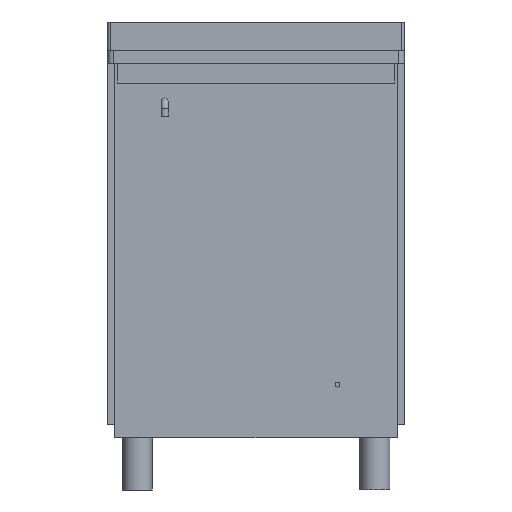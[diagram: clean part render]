
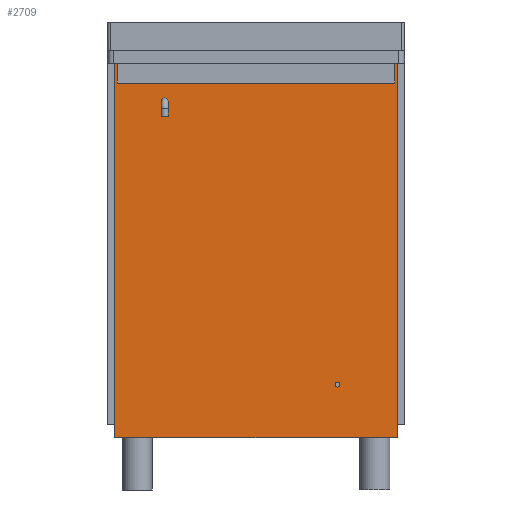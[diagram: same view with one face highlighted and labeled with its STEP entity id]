
A CAD part, left-side view. The second image highlights one B-rep face of the part: STEP entity #2709.
In plain terms, the highlighted planar face has unit normal (-1, 0, 0).
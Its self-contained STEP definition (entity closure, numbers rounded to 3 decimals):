
#505=FACE_BOUND('',#4905,.T.);
#506=FACE_BOUND('',#4906,.T.);
#507=FACE_BOUND('',#4907,.T.);
#1870=CIRCLE('',#16248,7.);
#1871=CIRCLE('',#16249,5.);
#2709=ADVANCED_FACE('',(#505,#506,#507),#3267,.F.);
#3267=PLANE('',#16250);
#4905=EDGE_LOOP('',(#8592));
#4906=EDGE_LOOP('',(#8593));
#4907=EDGE_LOOP('',(#8594,#8595,#8596,#8597));
#8592=ORIENTED_EDGE('',*,*,#12132,.T.);
#8593=ORIENTED_EDGE('',*,*,#12133,.F.);
#8594=ORIENTED_EDGE('',*,*,#12134,.T.);
#8595=ORIENTED_EDGE('',*,*,#12135,.F.);
#8596=ORIENTED_EDGE('',*,*,#12136,.F.);
#8597=ORIENTED_EDGE('',*,*,#12129,.T.);
#10214=VERTEX_POINT('',#25023);
#10215=VERTEX_POINT('',#25025);
#10217=VERTEX_POINT('',#25031);
#10218=VERTEX_POINT('',#25033);
#10219=VERTEX_POINT('',#25035);
#10220=VERTEX_POINT('',#25037);
#12129=EDGE_CURVE('',#10215,#10214,#13527,.T.);
#12132=EDGE_CURVE('',#10217,#10217,#1870,.T.);
#12133=EDGE_CURVE('',#10218,#10218,#1871,.T.);
#12134=EDGE_CURVE('',#10214,#10219,#13530,.T.);
#12135=EDGE_CURVE('',#10220,#10219,#13531,.T.);
#12136=EDGE_CURVE('',#10215,#10220,#13532,.T.);
#13527=LINE('',#25024,#14883);
#13530=LINE('',#25034,#14886);
#13531=LINE('',#25036,#14887);
#13532=LINE('',#25038,#14888);
#14883=VECTOR('',#20243,1.);
#14886=VECTOR('',#20252,1.);
#14887=VECTOR('',#20253,1.);
#14888=VECTOR('',#20254,1.);
#16248=AXIS2_PLACEMENT_3D('',#25030,#20248,#20249);
#16249=AXIS2_PLACEMENT_3D('',#25032,#20250,#20251);
#16250=AXIS2_PLACEMENT_3D('',#25039,#20255,#20256);
#20243=DIRECTION('',(0.,0.,-1.));
#20248=DIRECTION('',(1.,0.,0.));
#20249=DIRECTION('',(0.,-1.,0.));
#20250=DIRECTION('',(-1.,0.,0.));
#20251=DIRECTION('',(0.,0.,1.));
#20252=DIRECTION('',(0.,-1.,0.));
#20253=DIRECTION('',(0.,0.,-1.));
#20254=DIRECTION('',(0.,-1.,0.));
#20255=DIRECTION('',(1.,0.,0.));
#20256=DIRECTION('',(0.,0.,1.));
#25023=CARTESIAN_POINT('',(-531.,-15.,-718.374));
#25024=CARTESIAN_POINT('',(-531.,-15.,8.626));
#25025=CARTESIAN_POINT('',(-531.,-15.,35.626));
#25030=CARTESIAN_POINT('',(-531.,-115.,-41.374));
#25031=CARTESIAN_POINT('',(-531.,-122.,-41.374));
#25032=CARTESIAN_POINT('',(-531.,-463.,-611.374));
#25033=CARTESIAN_POINT('',(-531.,-463.,-606.374));
#25034=CARTESIAN_POINT('',(-531.,-15.,-718.374));
#25035=CARTESIAN_POINT('',(-531.,-583.,-718.374));
#25036=CARTESIAN_POINT('',(-531.,-583.,8.626));
#25037=CARTESIAN_POINT('',(-531.,-583.,35.626));
#25038=CARTESIAN_POINT('',(-531.,-15.,35.626));
#25039=CARTESIAN_POINT('',(-531.,-15.,8.626));
